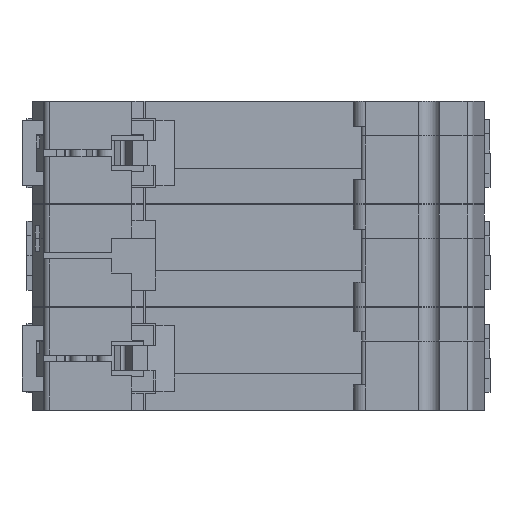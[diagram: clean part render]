
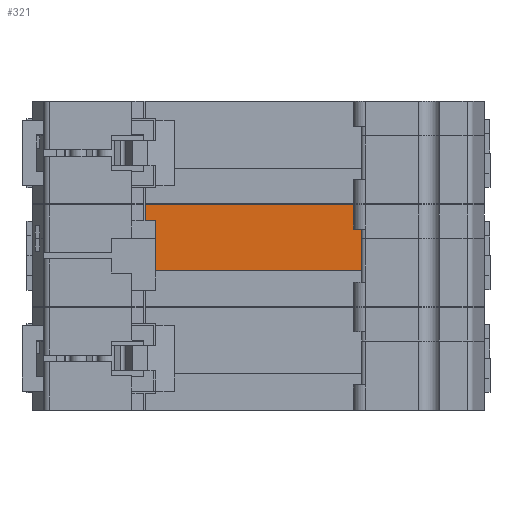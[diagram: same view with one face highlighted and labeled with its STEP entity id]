
A CAD part, front view. The second image highlights one B-rep face of the part: STEP entity #321.
In plain terms, the highlighted planar face has unit normal (0, -1, 0).
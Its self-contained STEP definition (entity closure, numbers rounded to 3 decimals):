
#123 = VECTOR ( 'NONE', #19365, 1000. ) ;
#321 = ADVANCED_FACE ( 'NONE', ( #13223 ), #21198, .T. ) ;
#366 = CARTESIAN_POINT ( 'NONE',  ( 29.2, -55.95, 81.465 ) ) ;
#525 = DIRECTION ( 'NONE',  ( 0., 0., 1. ) ) ;
#1265 = VERTEX_POINT ( 'NONE', #15238 ) ;
#1472 = VECTOR ( 'NONE', #13817, 1000. ) ;
#1572 = EDGE_CURVE ( 'NONE', #1265, #16023, #21237, .T. ) ;
#2227 = ORIENTED_EDGE ( 'NONE', *, *, #10911, .F. ) ;
#2436 = ORIENTED_EDGE ( 'NONE', *, *, #12311, .F. ) ;
#4520 = VERTEX_POINT ( 'NONE', #21658 ) ;
#5131 = CARTESIAN_POINT ( 'NONE',  ( -10.7, -55.95, 0.1 ) ) ;
#5496 = VERTEX_POINT ( 'NONE', #19933 ) ;
#5670 = DIRECTION ( 'NONE',  ( 0., 0., -1. ) ) ;
#5954 = VECTOR ( 'NONE', #13230, 1000. ) ;
#6034 = CARTESIAN_POINT ( 'NONE',  ( 29.2, -55.95, -11.3 ) ) ;
#6304 = ORIENTED_EDGE ( 'NONE', *, *, #21072, .F. ) ;
#6459 = CARTESIAN_POINT ( 'NONE',  ( -10.7, -55.95, -2.8 ) ) ;
#6589 = AXIS2_PLACEMENT_3D ( 'NONE', #10375, #18096, #18175 ) ;
#7143 = CARTESIAN_POINT ( 'NONE',  ( -11., -55.95, -2.8 ) ) ;
#7686 = VECTOR ( 'NONE', #525, 1000. ) ;
#8108 = DIRECTION ( 'NONE',  ( 0., 0., 1. ) ) ;
#8298 = VERTEX_POINT ( 'NONE', #16512 ) ;
#8376 = LINE ( 'NONE', #5131, #123 ) ;
#8772 = EDGE_LOOP ( 'NONE', ( #13086, #12675, #6304, #17543, #2436, #10632, #15970, #2227 ) ) ;
#9372 = EDGE_CURVE ( 'NONE', #19796, #16023, #8376, .T. ) ;
#9450 = CARTESIAN_POINT ( 'NONE',  ( 26.2, -55.95, -8.75 ) ) ;
#9811 = CARTESIAN_POINT ( 'NONE',  ( 29.2, -55.95, -11.3 ) ) ;
#10375 = CARTESIAN_POINT ( 'NONE',  ( -11., -55.95, -8.75 ) ) ;
#10632 = ORIENTED_EDGE ( 'NONE', *, *, #20925, .F. ) ;
#10911 = EDGE_CURVE ( 'NONE', #1265, #4520, #15325, .T. ) ;
#11017 = LINE ( 'NONE', #366, #12996 ) ;
#11224 = DIRECTION ( 'NONE',  ( -1., 0., 0. ) ) ;
#11244 = VECTOR ( 'NONE', #8108, 1000. ) ;
#11281 = CARTESIAN_POINT ( 'NONE',  ( -10.7, -55.95, 0.1 ) ) ;
#11760 = CARTESIAN_POINT ( 'NONE',  ( 29.2, -55.95, -5.8 ) ) ;
#12311 = EDGE_CURVE ( 'NONE', #5496, #8298, #22338, .T. ) ;
#12675 = ORIENTED_EDGE ( 'NONE', *, *, #9372, .F. ) ;
#12996 = VECTOR ( 'NONE', #5670, 1000. ) ;
#13086 = ORIENTED_EDGE ( 'NONE', *, *, #1572, .T. ) ;
#13223 = FACE_OUTER_BOUND ( 'NONE', #8772, .T. ) ;
#13230 = DIRECTION ( 'NONE',  ( 0., 0., 1. ) ) ;
#13817 = DIRECTION ( 'NONE',  ( 1., 0., 0. ) ) ;
#14894 = CARTESIAN_POINT ( 'NONE',  ( -8.9, -55.95, -8.75 ) ) ;
#15029 = VERTEX_POINT ( 'NONE', #6459 ) ;
#15238 = CARTESIAN_POINT ( 'NONE',  ( 26.2, -55.95, -5.8 ) ) ;
#15325 = LINE ( 'NONE', #11760, #1472 ) ;
#15970 = ORIENTED_EDGE ( 'NONE', *, *, #20169, .F. ) ;
#16023 = VERTEX_POINT ( 'NONE', #18624 ) ;
#16401 = VERTEX_POINT ( 'NONE', #9811 ) ;
#16512 = CARTESIAN_POINT ( 'NONE',  ( -8.9, -55.95, -2.8 ) ) ;
#17250 = EDGE_CURVE ( 'NONE', #8298, #15029, #21606, .T. ) ;
#17543 = ORIENTED_EDGE ( 'NONE', *, *, #17250, .F. ) ;
#17757 = VECTOR ( 'NONE', #11224, 1000. ) ;
#18096 = DIRECTION ( 'NONE',  ( 0., -1., 0. ) ) ;
#18175 = DIRECTION ( 'NONE',  ( 0., 0., -1. ) ) ;
#18624 = CARTESIAN_POINT ( 'NONE',  ( 26.2, -55.95, 0.1 ) ) ;
#19081 = VECTOR ( 'NONE', #23246, 1000. ) ;
#19365 = DIRECTION ( 'NONE',  ( 1., 0., 0. ) ) ;
#19796 = VERTEX_POINT ( 'NONE', #11281 ) ;
#19933 = CARTESIAN_POINT ( 'NONE',  ( -8.9, -55.95, -11.3 ) ) ;
#20169 = EDGE_CURVE ( 'NONE', #4520, #16401, #11017, .T. ) ;
#20789 = CARTESIAN_POINT ( 'NONE',  ( -10.7, -55.95, -2.8 ) ) ;
#20925 = EDGE_CURVE ( 'NONE', #16401, #5496, #22575, .T. ) ;
#21072 = EDGE_CURVE ( 'NONE', #15029, #19796, #21421, .T. ) ;
#21198 = PLANE ( 'NONE',  #6589 ) ;
#21237 = LINE ( 'NONE', #9450, #7686 ) ;
#21421 = LINE ( 'NONE', #20789, #11244 ) ;
#21606 = LINE ( 'NONE', #7143, #19081 ) ;
#21658 = CARTESIAN_POINT ( 'NONE',  ( 29.2, -55.95, -5.8 ) ) ;
#22338 = LINE ( 'NONE', #14894, #5954 ) ;
#22575 = LINE ( 'NONE', #6034, #17757 ) ;
#23246 = DIRECTION ( 'NONE',  ( -1., 0., 0. ) ) ;
